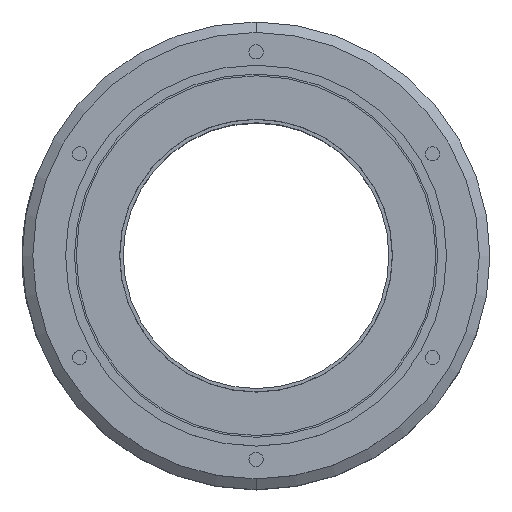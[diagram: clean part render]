
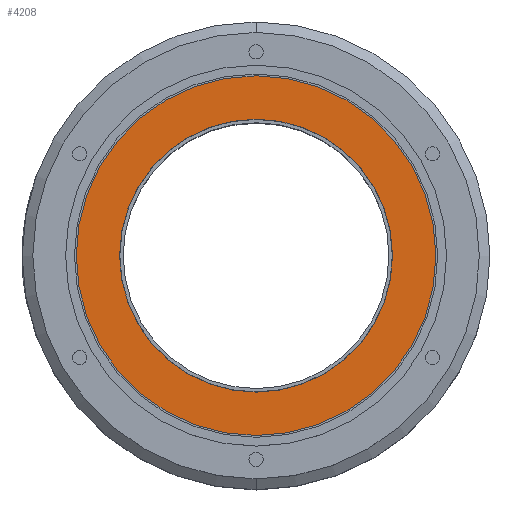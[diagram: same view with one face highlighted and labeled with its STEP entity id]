
A CAD part, top view. The second image highlights one B-rep face of the part: STEP entity #4208.
In plain terms, the highlighted planar face has unit normal (0, 0, 1).
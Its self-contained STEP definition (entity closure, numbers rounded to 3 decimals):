
#1509 = CARTESIAN_POINT ( 'NONE',  ( 77., 0., 158. ) ) ;
#1520 = CARTESIAN_POINT ( 'NONE',  ( -77., 0., 158. ) ) ;
#1523 = DIRECTION ( 'NONE',  ( 1., 0., 0. ) ) ;
#1524 = DIRECTION ( 'NONE',  ( 0., 0., 1. ) ) ;
#1525 = CARTESIAN_POINT ( 'NONE',  ( 0., 0., 158. ) ) ;
#1526 = AXIS2_PLACEMENT_3D ( 'NONE', #1525, #1524, #1523 ) ;
#1533 = CIRCLE ( 'NONE', #1526, 101.5 ) ;
#1586 = CARTESIAN_POINT ( 'NONE',  ( -101.5, 0., 158. ) ) ;
#1600 = CARTESIAN_POINT ( 'NONE',  ( 101.5, 0., 158. ) ) ;
#1613 = DIRECTION ( 'NONE',  ( 1., 0., 0. ) ) ;
#1614 = DIRECTION ( 'NONE',  ( 0., 0., 1. ) ) ;
#1615 = CARTESIAN_POINT ( 'NONE',  ( 0., 0., 158. ) ) ;
#1616 = AXIS2_PLACEMENT_3D ( 'NONE', #1615, #1614, #1613 ) ;
#1630 = CIRCLE ( 'NONE', #1616, 77. ) ;
#1742 = DIRECTION ( 'NONE',  ( 1., 0., 0. ) ) ;
#1743 = DIRECTION ( 'NONE',  ( 0., 0., 1. ) ) ;
#1744 = CARTESIAN_POINT ( 'NONE',  ( 0., 0., 158. ) ) ;
#1748 = CIRCLE ( 'NONE', #1760, 77. ) ;
#1760 = AXIS2_PLACEMENT_3D ( 'NONE', #1744, #1743, #1742 ) ;
#1828 = PLANE ( 'NONE',  #1837 ) ;
#1832 = CIRCLE ( 'NONE', #1839, 101.5 ) ;
#1833 = DIRECTION ( 'NONE',  ( 0., 0., 1. ) ) ;
#1834 = CARTESIAN_POINT ( 'NONE',  ( 0., -75., 158. ) ) ;
#1837 = AXIS2_PLACEMENT_3D ( 'NONE', #1834, #1833, #1887 ) ;
#1838 = CARTESIAN_POINT ( 'NONE',  ( 0., 0., 158. ) ) ;
#1839 = AXIS2_PLACEMENT_3D ( 'NONE', #1838, #1894, #1893 ) ;
#1847 = FACE_OUTER_BOUND ( 'NONE', #4210, .T. ) ;
#1887 = DIRECTION ( 'NONE',  ( 0., -1., 0. ) ) ;
#1893 = DIRECTION ( 'NONE',  ( 1., 0., 0. ) ) ;
#1894 = DIRECTION ( 'NONE',  ( 0., 0., 1. ) ) ;
#1895 = FACE_BOUND ( 'NONE', #4207, .T. ) ;
#4036 = EDGE_CURVE ( 'NONE', #4062, #4078, #1533, .T. ) ;
#4047 = VERTEX_POINT ( 'NONE', #1509 ) ;
#4052 = VERTEX_POINT ( 'NONE', #1520 ) ;
#4062 = VERTEX_POINT ( 'NONE', #1600 ) ;
#4078 = VERTEX_POINT ( 'NONE', #1586 ) ;
#4089 = EDGE_CURVE ( 'NONE', #4052, #4047, #1630, .T. ) ;
#4144 = ORIENTED_EDGE ( 'NONE', *, *, #4147, .F. ) ;
#4146 = ORIENTED_EDGE ( 'NONE', *, *, #4036, .T. ) ;
#4147 = EDGE_CURVE ( 'NONE', #4047, #4052, #1748, .T. ) ;
#4204 = ORIENTED_EDGE ( 'NONE', *, *, #4205, .T. ) ;
#4205 = EDGE_CURVE ( 'NONE', #4078, #4062, #1832, .T. ) ;
#4207 = EDGE_LOOP ( 'NONE', ( #4144, #4209 ) ) ;
#4208 = ADVANCED_FACE ( 'NONE', ( #1895, #1847 ), #1828, .T. ) ;
#4209 = ORIENTED_EDGE ( 'NONE', *, *, #4089, .F. ) ;
#4210 = EDGE_LOOP ( 'NONE', ( #4146, #4204 ) ) ;
